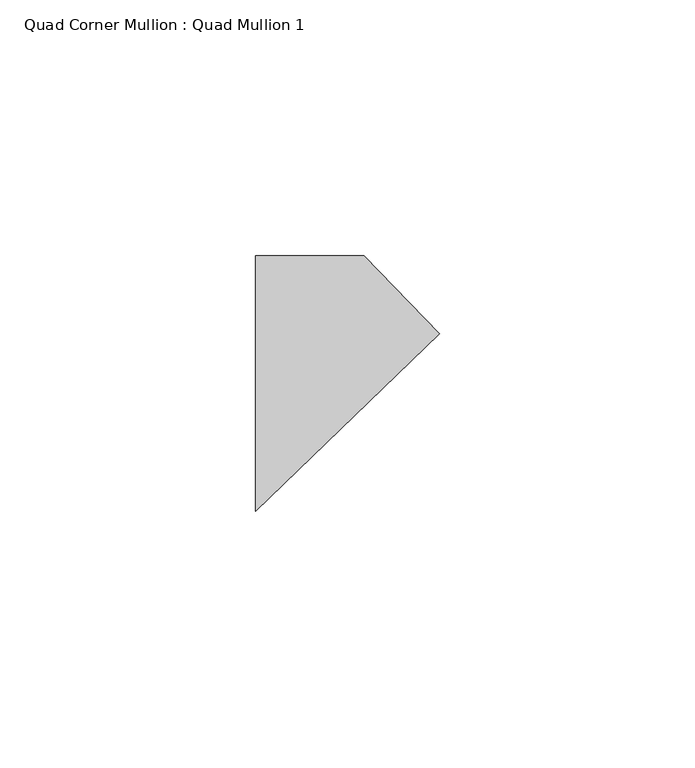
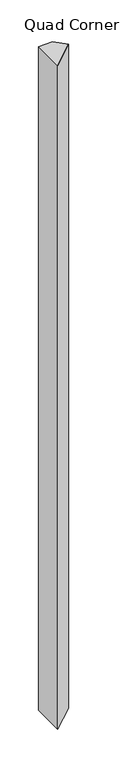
"""IFC4 building model written with IfcOpenShell, lengths in millimetres: member geometry, Quad Corner Mullion : Quad Mullion 1."""

from ifc_helpers import new_model, si_unit, frame, origin, place, context, project, spatial, polyline, outline, extrude, source, transform, mapped, element, save


def quad_corner_mullion_quad_mullion_1_a2d68a8e(model_context):
    return source(origin(), model_context, "Body", "SweptSolid", [
        extrude(outline(polyline([(25.3551196, 9.7329185), (-10.6118704, -25.0), (-10.6118704, 25.0), (10.6118704, 25.0), (25.3551196, 9.7329185)])), frame((0.0, 0.0, -1050.0), z_axis=(0.0, 0.0, 1.0), x_axis=(1.0, 0.0, 0.0)), (0.0, 0.0, 1.0), 1050.0),
    ])


if __name__ == "__main__":
    model = new_model("IFC4")
    model_context = context("Model", 3, world=origin())
    ifc_project = project(units=[si_unit("LENGTHUNIT", "METRE", prefix="MILLI")], contexts=[model_context])
    site = spatial("IfcSite", under=ifc_project)
    building = spatial("IfcBuilding", under=site)
    placement = place(None, origin())
    quad_corner_mullion_quad_mullion_1_shape = quad_corner_mullion_quad_mullion_1_a2d68a8e(model_context)
    element("IfcMember", 1, ObjectType="Quad Corner Mullion : Quad Mullion 1", at=placement, inside=building, context=model_context, shape_type="MappedRepresentation", body=[
        mapped(quad_corner_mullion_quad_mullion_1_shape, transform((0.0, 0.0, 0.0), x_axis=(1.0, 0.0, 0.0), y_axis=(0.0, 1.0, 0.0), z_axis=(0.0, 0.0, 1.0))),
    ])
    save(model, "model.ifc")
